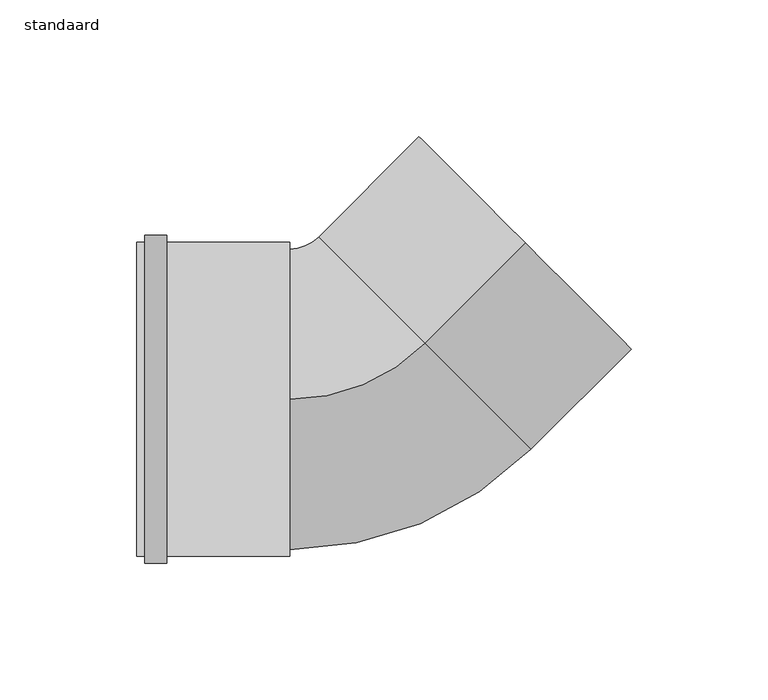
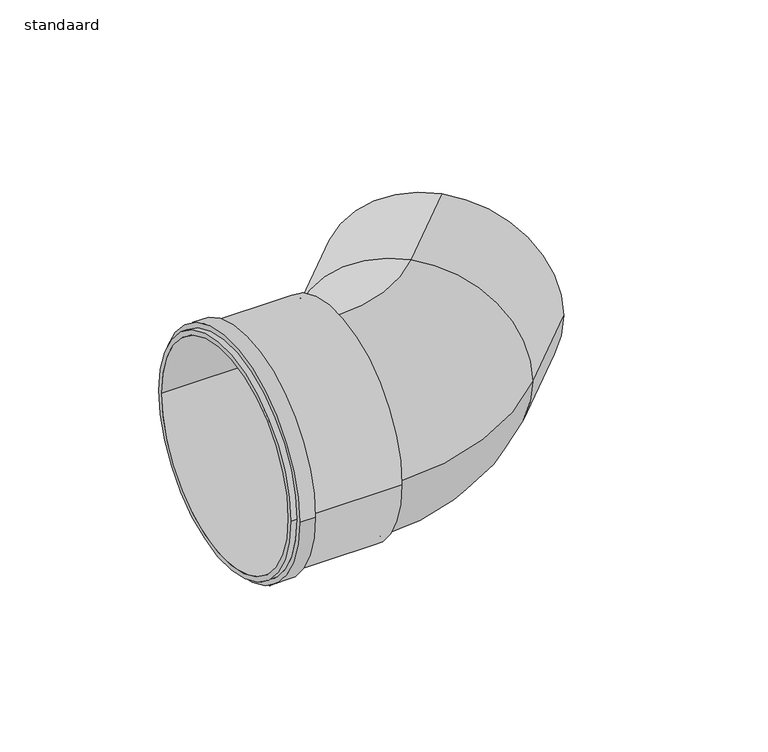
"""IFC4 building model written with IfcOpenShell, lengths in millimetres: pipe fitting geometry, 400_52_Dyka_PP_DykaStil_bocht_MS : standaard."""

from ifc_helpers import new_model, si_unit, point, frame, origin, place, context, project, spatial, polyline, circle_curve, ellipse_curve, trimmed, source, transform, mapped, element, save
from ifc_brep_helpers import plane_surface, cylinder_surface, revolved_surface, advanced_brep


def standaard_b0c3b7f6(model_context):
    return source(origin(), model_context, "Body", "AdvancedBrep", [
        advanced_brep(
        [(-18.3847763, 59.3969696, 0.0), (-29.0, 55.0, 0.0), (-29.0, 0.0, 55.0), (20.5060967, 20.5060967, 55.0), (20.5060967, 20.5060967, -55.0), (-29.0, 0.0, -55.0), (59.3969696, -18.3847763, 0.0), (-29.0, -55.0, 0.0), (-30.0, 0.0, 55.0), (-30.0, 55.0, 0.0), (-30.0, 0.0, -55.0), (-30.0, -55.0, 0.0), (57.2756493, 57.2756493, 55.0), (96.1665222, 18.3847763, 0.0), (57.2756493, 57.2756493, -55.0), (18.3847763, 96.1665222, 0.0)],
        [
            (0, 1, circle_curve(frame((-29.0, 70.0121933, 0.0), z_axis=(0.0, 0.0, -1.0), x_axis=(0.0, -1.0, 0.0)), 15.0121933)),
            (1, 2, circle_curve(frame((-29.0, 0.0, 0.0), z_axis=(1.0, 0.0, 0.0), x_axis=(0.0, 1.0, 0.0)), 55.0)),
            (2, 3, circle_curve(frame((-29.0, 70.0121933, 55.0), z_axis=(0.0, 0.0, 1.0), x_axis=(0.0, -1.0, 0.0)), 70.0121933)),
            (3, 0, circle_curve(frame((20.5060967, 20.5060967, 0.0), z_axis=(-0.707106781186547, -0.707106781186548, 0.0), x_axis=(-0.707106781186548, 0.707106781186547, 0.0)), 55.0)),
            (0, 4, circle_curve(frame((20.5060967, 20.5060967, 0.0), z_axis=(-0.707106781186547, -0.707106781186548, 0.0), x_axis=(-0.707106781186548, 0.707106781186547, 0.0)), 55.0)),
            (4, 5, circle_curve(frame((-29.0, 70.0121933, -55.0), z_axis=(0.0, 0.0, -1.0), x_axis=(0.0, -1.0, 0.0)), 70.0121933)),
            (5, 1, circle_curve(frame((-29.0, 0.0, 0.0), z_axis=(1.0, 0.0, 0.0), x_axis=(0.0, 1.0, 0.0)), 55.0)),
            (4, 6, circle_curve(frame((20.5060967, 20.5060967, 0.0), z_axis=(-0.707106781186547, -0.707106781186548, 0.0), x_axis=(-0.707106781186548, 0.707106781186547, 0.0)), 55.0)),
            (6, 7, circle_curve(frame((-29.0, 70.0121933, 0.0), z_axis=(0.0, 0.0, -1.0), x_axis=(0.0, -1.0, 0.0)), 125.0121933)),
            (7, 5, circle_curve(frame((-29.0, 0.0, 0.0), z_axis=(1.0, 0.0, 0.0), x_axis=(0.0, 1.0, 0.0)), 55.0)),
            (2, 7, circle_curve(frame((-29.0, 0.0, 0.0), z_axis=(1.0, 0.0, 0.0), x_axis=(0.0, 1.0, 0.0)), 55.0)),
            (6, 3, circle_curve(frame((20.5060967, 20.5060967, 0.0), z_axis=(-0.707106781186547, -0.707106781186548, 0.0), x_axis=(-0.707106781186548, 0.707106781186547, 0.0)), 55.0)),
            (8, 9, circle_curve(frame((-30.0, 0.0, 0.0), z_axis=(-1.0, 0.0, 0.0), x_axis=(0.0, -1.0, 0.0)), 55.0)),
            (9, 10, circle_curve(frame((-30.0, 0.0, 0.0), z_axis=(-1.0, 0.0, 0.0), x_axis=(0.0, -1.0, 0.0)), 55.0)),
            (10, 11, circle_curve(frame((-30.0, 0.0, 0.0), z_axis=(-1.0, 0.0, 0.0), x_axis=(0.0, -1.0, 0.0)), 55.0)),
            (11, 8, circle_curve(frame((-30.0, 0.0, 0.0), z_axis=(-1.0, 0.0, 0.0), x_axis=(0.0, -1.0, 0.0)), 55.0)),
            (11, 7),
            (2, 8),
            (10, 5),
            (9, 1),
            (12, 13, circle_curve(frame((57.2756493, 57.2756493, 0.0), z_axis=(0.7071067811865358, 0.7071067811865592, 0.0), x_axis=(-0.7071067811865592, 0.7071067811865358, 0.0)), 55.0)),
            (13, 14, circle_curve(frame((57.2756493, 57.2756493, 0.0), z_axis=(0.7071067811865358, 0.7071067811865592, 0.0), x_axis=(-0.7071067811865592, 0.7071067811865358, 0.0)), 55.0)),
            (14, 15, circle_curve(frame((57.2756493, 57.2756493, 0.0), z_axis=(0.7071067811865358, 0.7071067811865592, 0.0), x_axis=(-0.7071067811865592, 0.7071067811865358, 0.0)), 55.0)),
            (15, 12, circle_curve(frame((57.2756493, 57.2756493, 0.0), z_axis=(0.7071067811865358, 0.7071067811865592, 0.0), x_axis=(-0.7071067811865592, 0.7071067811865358, 0.0)), 55.0)),
            (15, 0),
            (3, 12),
            (14, 4),
            (13, 6),
        ],
        [
            revolved_surface(trimmed(ellipse_curve(frame((-29.0, 0.0, 0.0), z_axis=(-1.0, 0.0, 0.0), x_axis=(0.0, 1.0, 0.0)), 55.0, 55.0), [point((-29.0, 0.0, 55.0))], [point((-29.0, 55.0, 0.0))], True, "CARTESIAN"), (-29.0, 70.0121933, 0.0), (0.0, 0.0, 1.0)),
            revolved_surface(trimmed(ellipse_curve(frame((-29.0, 0.0, 0.0), z_axis=(-1.0, 0.0, 0.0), x_axis=(0.0, 1.0, 0.0)), 55.0, 55.0), [point((-29.0, 55.0, 0.0))], [point((-29.0, 0.0, -55.0))], True, "CARTESIAN"), (-29.0, 70.0121933, 0.0), (0.0, 0.0, 1.0)),
            revolved_surface(trimmed(ellipse_curve(frame((-29.0, 0.0, 0.0), z_axis=(-1.0, 0.0, 0.0), x_axis=(0.0, 1.0, 0.0)), 55.0, 55.0), [point((-29.0, 0.0, -55.0))], [point((-29.0, -55.0, 0.0))], True, "CARTESIAN"), (-29.0, 70.0121933, 0.0), (0.0, 0.0, 1.0)),
            revolved_surface(trimmed(ellipse_curve(frame((-29.0, 0.0, 0.0), z_axis=(-1.0, 0.0, 0.0), x_axis=(0.0, 1.0, 0.0)), 55.0, 55.0), [point((-29.0, -55.0, 0.0))], [point((-29.0, 0.0, 55.0))], True, "CARTESIAN"), (-29.0, 70.0121933, 0.0), (0.0, 0.0, 1.0)),
            plane_surface(frame((-30.0, 0.0, 0.0), z_axis=(-1.0, 0.0, 0.0), x_axis=(0.0, 0.0, 1.0))),
            cylinder_surface(frame((-29.0, 0.0, 0.0), z_axis=(1.0, 0.0, 0.0), x_axis=(0.0, -1.0, 0.0)), 55.0),
            plane_surface(frame((57.2756493, 57.2756493, 0.0), z_axis=(0.7071067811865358, 0.7071067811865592, 0.0), x_axis=(0.0, 0.0, 1.0))),
            cylinder_surface(frame((20.5060967, 20.5060967, 0.0), z_axis=(-0.7071067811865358, -0.7071067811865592, 0.0), x_axis=(-0.7071067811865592, 0.7071067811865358, 0.0)), 55.0),
        ],
        [
            (0, [[1, 2, 3, 4]]),
            (1, [[-1, 5, 6, 7]]),
            (2, [[-6, 8, 9, 10]]),
            (3, [[-3, 11, -9, 12]]),
            (4, [[13, 14, 15, 16]]),
            (5, [[-16, 17, -11, 18]]),
            (5, [[-15, 19, -10, -17]]),
            (5, [[-14, 20, -7, -19]]),
            (5, [[-13, -18, -2, -20]]),
            (6, [[21, 22, 23, 24]]),
            (7, [[-24, 25, -4, 26]]),
            (7, [[-23, 27, -5, -25]]),
            (7, [[-22, 28, -8, -27]]),
            (7, [[-21, -26, -12, -28]]),
        ],
    ),
        advanced_brep(
        [(-29.0, 57.5, 0.0), (-29.0, -57.5, 0.0), (-29.0, 55.0, 0.0), (-29.0, -55.0, 0.0), (-85.0, 57.5, 0.0), (-85.0, -57.5, 0.0), (-85.0, 55.0, 0.0), (-85.0, -55.0, 0.0), (-74.0, 57.5, 0.0), (-74.0, -57.5, 0.0), (-82.0, -57.5, 0.0), (-82.0, 57.5, 0.0), (-82.0, -60.0, 0.0), (-82.0, 60.0, 0.0), (-74.0, -60.0, 0.0), (-74.0, 60.0, 0.0)],
        [
            (0, 1, circle_curve(frame((-29.0, 0.0, 0.0), z_axis=(1.0, 0.0, 0.0), x_axis=(0.0, -1.0, 0.0)), 57.5)),
            (1, 0, circle_curve(frame((-29.0, 0.0, 0.0), z_axis=(1.0, 0.0, 0.0), x_axis=(0.0, -1.0, 0.0)), 57.5)),
            (2, 3, circle_curve(frame((-29.0, 0.0, 0.0), z_axis=(-1.0, 0.0, 0.0), x_axis=(0.0, -1.0, 0.0)), 55.0)),
            (3, 2, circle_curve(frame((-29.0, 0.0, 0.0), z_axis=(-1.0, 0.0, 0.0), x_axis=(0.0, -1.0, 0.0)), 55.0)),
            (4, 5, circle_curve(frame((-85.0, 0.0, 0.0), z_axis=(-1.0, 0.0, 0.0), x_axis=(0.0, -1.0, 0.0)), 57.5)),
            (5, 4, circle_curve(frame((-85.0, 0.0, 0.0), z_axis=(-1.0, 0.0, 0.0), x_axis=(0.0, -1.0, 0.0)), 57.5)),
            (6, 7, circle_curve(frame((-85.0, 0.0, 0.0), z_axis=(1.0, 0.0, 0.0), x_axis=(0.0, -1.0, 0.0)), 55.0)),
            (7, 6, circle_curve(frame((-85.0, 0.0, 0.0), z_axis=(1.0, 0.0, 0.0), x_axis=(0.0, -1.0, 0.0)), 55.0)),
            (2, 6),
            (7, 3),
            (0, 8),
            (8, 9, circle_curve(frame((-74.0, 0.0, 0.0), z_axis=(1.0, 0.0, 0.0), x_axis=(0.0, -1.0, 0.0)), 57.5)),
            (9, 1),
            (5, 10),
            (10, 11, circle_curve(frame((-82.0, 0.0, 0.0), z_axis=(-1.0, 0.0, 0.0), x_axis=(0.0, -1.0, 0.0)), 57.5)),
            (11, 4),
            (9, 8, circle_curve(frame((-74.0, 0.0, 0.0), z_axis=(1.0, 0.0, 0.0), x_axis=(0.0, -1.0, 0.0)), 57.5)),
            (11, 10, circle_curve(frame((-82.0, 0.0, 0.0), z_axis=(-1.0, 0.0, 0.0), x_axis=(0.0, -1.0, 0.0)), 57.5)),
            (12, 13, circle_curve(frame((-82.0, 0.0, 0.0), z_axis=(-1.0, 0.0, 0.0), x_axis=(0.0, 1.0, 0.0)), 60.0)),
            (13, 12, circle_curve(frame((-82.0, 0.0, 0.0), z_axis=(-1.0, 0.0, 0.0), x_axis=(0.0, 1.0, 0.0)), 60.0)),
            (14, 15, circle_curve(frame((-74.0, 0.0, 0.0), z_axis=(1.0, 0.0, 0.0), x_axis=(0.0, 1.0, 0.0)), 60.0)),
            (15, 14, circle_curve(frame((-74.0, 0.0, 0.0), z_axis=(1.0, 0.0, 0.0), x_axis=(0.0, 1.0, 0.0)), 60.0)),
            (12, 14),
            (15, 13),
        ],
        [
            plane_surface(frame((-29.0, 0.0, 0.0), z_axis=(1.0, 0.0, 0.0), x_axis=(0.0, 0.0, 1.0))),
            plane_surface(frame((-85.0, 0.0, 0.0), z_axis=(-1.0, 0.0, 0.0), x_axis=(0.0, 0.0, 1.0))),
            revolved_surface(polyline([(-85.0, -55.0, 0.0), (-29.0, -55.0, 0.0)]), (-29.0, 0.0, 0.0), (-1.0, 0.0, 0.0)),
            cylinder_surface(frame((-29.0, 0.0, 0.0), z_axis=(1.0, 0.0, 0.0), x_axis=(0.0, -1.0, 0.0)), 57.5),
            plane_surface(frame((-82.0, 0.0, 0.0), z_axis=(-1.0, 0.0, 0.0), x_axis=(0.0, 0.0, 1.0))),
            plane_surface(frame((-74.0, 0.0, 0.0), z_axis=(1.0, 0.0, 0.0), x_axis=(0.0, 0.0, 1.0))),
            cylinder_surface(frame((-82.0, 0.0, 0.0), z_axis=(-1.0, 0.0, 0.0), x_axis=(0.0, 1.0, 0.0)), 60.0),
        ],
        [
            (0, [[1, 2], [3, 4]]),
            (1, [[5, 6], [7, 8]]),
            (2, [[-3, 9, -8, 10]]),
            (2, [[-4, -10, -7, -9]]),
            (3, [[-1, 11, 12, 13]]),
            (3, [[-6, 14, 15, 16]]),
            (3, [[-2, -13, 17, -11]]),
            (3, [[-5, -16, 18, -14]]),
            (4, [[19, 20], [-15, -18]]),
            (5, [[21, 22], [-12, -17]]),
            (6, [[-19, 23, -22, 24]]),
            (6, [[-20, -24, -21, -23]]),
        ],
    ),
    ])


if __name__ == "__main__":
    model = new_model("IFC4")
    model_context = context("Model", 3, world=origin())
    ifc_project = project(units=[si_unit("LENGTHUNIT", "METRE", prefix="MILLI")], contexts=[model_context])
    site = spatial("IfcSite", under=ifc_project)
    building = spatial("IfcBuilding", under=site)
    placement = place(None, origin())
    standaard_shape = standaard_b0c3b7f6(model_context)
    element("IfcPipeFitting", 1, ObjectType="400_52_Dyka_PP_DykaStil_bocht_MS : standaard", at=placement, inside=building, context=model_context, shape_type="MappedRepresentation", body=[
        mapped(standaard_shape, transform((0.0, 0.0, 0.0), x_axis=(1.0, 0.0, 0.0), y_axis=(0.0, 1.0, 0.0), z_axis=(0.0, 0.0, 1.0))),
    ])
    save(model, "model.ifc")
